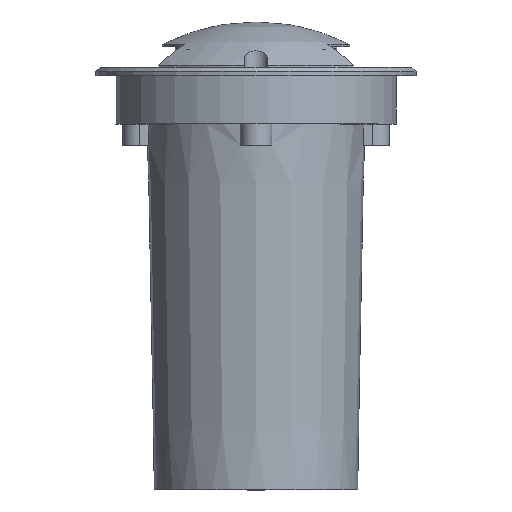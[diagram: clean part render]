
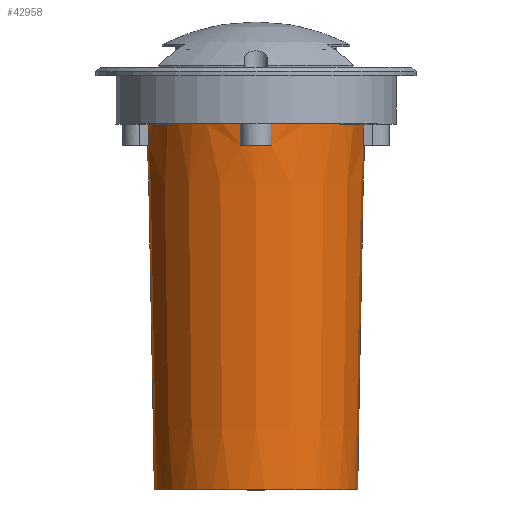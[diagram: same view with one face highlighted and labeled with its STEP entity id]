
A CAD part, top view. The second image highlights one B-rep face of the part: STEP entity #42958.
In plain terms, the highlighted conical face has half-angle 1.081 degrees and reference radius 38.25 mm.
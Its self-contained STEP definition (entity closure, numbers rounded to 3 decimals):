
#40450=CARTESIAN_POINT('',(0.,-150.,0.));
#40451=DIRECTION('',(0.,-1.,0.));
#40452=DIRECTION('',(0.707,0.,-0.707));
#40453=AXIS2_PLACEMENT_3D('',#40450,#40451,#40452);
#40455=CARTESIAN_POINT('',(0.,-150.,0.));
#40456=DIRECTION('',(0.,-1.,0.));
#40457=DIRECTION('',(-0.707,0.,0.707));
#40458=AXIS2_PLACEMENT_3D('',#40455,#40456,#40457);
#40460=DIRECTION('',(-0.013,1.,-0.013));
#40461=VECTOR('',#40460,132.524);
#40462=CARTESIAN_POINT('',(-26.163,-150.,-26.163));
#40463=LINE('',#40462,#40461);
#40464=DIRECTION('',(0.013,1.,-0.013));
#40465=VECTOR('',#40464,132.524);
#40466=CARTESIAN_POINT('',(26.163,-150.,-26.163));
#40467=LINE('',#40466,#40465);
#40483=CARTESIAN_POINT('',(0.,-17.5,0.));
#40484=DIRECTION('',(0.,-1.,0.));
#40485=DIRECTION('',(-0.989,0.,-0.145));
#40486=AXIS2_PLACEMENT_3D('',#40483,#40484,#40485);
#40521=CARTESIAN_POINT('',(0.,-17.5,0.));
#40522=DIRECTION('',(0.,-1.,0.));
#40523=DIRECTION('',(0.707,0.,-0.707));
#40524=AXIS2_PLACEMENT_3D('',#40521,#40522,#40523);
#40549=CARTESIAN_POINT('',(0.,-17.5,0.));
#40550=DIRECTION('',(0.,-1.,0.));
#40551=DIRECTION('',(0.989,0.,0.145));
#40552=AXIS2_PLACEMENT_3D('',#40549,#40550,#40551);
#40577=CARTESIAN_POINT('',(0.,-17.5,0.));
#40578=DIRECTION('',(0.,-1.,0.));
#40579=DIRECTION('',(-0.145,0.,0.989));
#40580=AXIS2_PLACEMENT_3D('',#40577,#40578,#40579);
#40582=CARTESIAN_POINT('',(0.,-17.5,0.));
#40583=DIRECTION('',(0.,-1.,0.));
#40584=DIRECTION('',(-0.707,0.,0.707));
#40585=AXIS2_PLACEMENT_3D('',#40582,#40583,#40584);
#42247=CARTESIAN_POINT('',(0.,-25.2,0.));
#42248=DIRECTION('',(0.,-1.,0.));
#42249=DIRECTION('',(0.99,0.,-0.14));
#42250=AXIS2_PLACEMENT_3D('',#42247,#42248,#42249);
#42286=CARTESIAN_POINT('',(38.935,-25.2,5.733));
#42287=CARTESIAN_POINT('',(38.984,-22.633,
5.733));
#42288=CARTESIAN_POINT('',(39.032,-20.067,
5.74));
#42289=CARTESIAN_POINT('',(39.081,-17.5,5.74));
#42303=CARTESIAN_POINT('',(39.11,-17.5,-5.535));
#42304=CARTESIAN_POINT('',(39.062,-20.067,
-5.532));
#42305=CARTESIAN_POINT('',(39.014,-22.633,
-5.525));
#42306=CARTESIAN_POINT('',(38.965,-25.2,-5.522));
#42316=CARTESIAN_POINT('',(0.,-25.2,0.));
#42317=DIRECTION('',(0.,-1.,0.));
#42318=DIRECTION('',(-0.99,0.,0.14));
#42319=AXIS2_PLACEMENT_3D('',#42316,#42317,#42318);
#42355=CARTESIAN_POINT('',(-38.935,-25.2,-5.733));
#42356=CARTESIAN_POINT('',(-38.984,-22.633,
-5.733));
#42357=CARTESIAN_POINT('',(-39.032,-20.067,
-5.74));
#42358=CARTESIAN_POINT('',(-39.081,-17.5,-5.74));
#42372=CARTESIAN_POINT('',(-39.11,-17.5,5.535));
#42373=CARTESIAN_POINT('',(-39.062,-20.067,
5.532));
#42374=CARTESIAN_POINT('',(-39.014,-22.633,
5.525));
#42375=CARTESIAN_POINT('',(-38.965,-25.2,5.522));
#42385=CARTESIAN_POINT('',(0.,-25.2,0.));
#42386=DIRECTION('',(0.,-1.,0.));
#42387=DIRECTION('',(0.14,0.,0.99));
#42388=AXIS2_PLACEMENT_3D('',#42385,#42386,#42387);
#42424=CARTESIAN_POINT('',(-5.733,-25.2,38.935));
#42425=CARTESIAN_POINT('',(-5.733,-22.633,
38.984));
#42426=CARTESIAN_POINT('',(-5.74,-20.067,
39.032));
#42427=CARTESIAN_POINT('',(-5.74,-17.5,39.081));
#42441=CARTESIAN_POINT('',(5.535,-17.5,39.11));
#42442=CARTESIAN_POINT('',(5.532,-20.067,
39.062));
#42443=CARTESIAN_POINT('',(5.525,-22.633,
39.014));
#42444=CARTESIAN_POINT('',(5.522,-25.2,38.965));
#42446=CARTESIAN_POINT('',(26.163,-150.,-26.163));
#42447=CARTESIAN_POINT('',(27.931,-17.5,-27.931));
#42448=VERTEX_POINT('',#42446);
#42449=VERTEX_POINT('',#42447);
#42450=CARTESIAN_POINT('',(-26.163,-150.,26.163));
#42451=CARTESIAN_POINT('',(-26.163,-150.,-26.163));
#42452=VERTEX_POINT('',#42450);
#42453=VERTEX_POINT('',#42451);
#42454=CARTESIAN_POINT('',(-27.931,-17.5,-27.931));
#42455=VERTEX_POINT('',#42454);
#42456=CARTESIAN_POINT('',(-39.081,-17.5,-5.737));
#42457=VERTEX_POINT('',#42456);
#42458=VERTEX_POINT('',#42355);
#42459=CARTESIAN_POINT('',(-38.965,-25.2,5.524));
#42460=VERTEX_POINT('',#42459);
#42461=VERTEX_POINT('',#42372);
#42462=CARTESIAN_POINT('',(-5.737,-17.5,39.081));
#42463=CARTESIAN_POINT('',(-27.931,-17.5,27.931));
#42464=VERTEX_POINT('',#42462);
#42465=VERTEX_POINT('',#42463);
#42466=VERTEX_POINT('',#42424);
#42467=CARTESIAN_POINT('',(5.524,-25.2,38.965));
#42468=VERTEX_POINT('',#42467);
#42469=VERTEX_POINT('',#42441);
#42470=CARTESIAN_POINT('',(39.081,-17.5,5.737));
#42471=VERTEX_POINT('',#42470);
#42472=VERTEX_POINT('',#42286);
#42473=CARTESIAN_POINT('',(38.965,-25.2,-5.524));
#42474=VERTEX_POINT('',#42473);
#42475=VERTEX_POINT('',#42303);
#42915=CARTESIAN_POINT('',(0.,-83.75,0.));
#42916=DIRECTION('',(0.,1.,0.));
#42917=DIRECTION('',(0.707,0.,-0.707));
#42918=AXIS2_PLACEMENT_3D('',#42915,#42916,#42917);
#42919=CONICAL_SURFACE('',#42918,38.25,1.081);
#42921=ORIENTED_EDGE('',*,*,#42920,.F.);
#42923=ORIENTED_EDGE('',*,*,#42922,.T.);
#42925=ORIENTED_EDGE('',*,*,#42924,.T.);
#42927=ORIENTED_EDGE('',*,*,#42926,.T.);
#42929=ORIENTED_EDGE('',*,*,#42928,.F.);
#42931=ORIENTED_EDGE('',*,*,#42930,.F.);
#42933=ORIENTED_EDGE('',*,*,#42932,.F.);
#42935=ORIENTED_EDGE('',*,*,#42934,.F.);
#42937=ORIENTED_EDGE('',*,*,#42936,.F.);
#42939=ORIENTED_EDGE('',*,*,#42938,.F.);
#42941=ORIENTED_EDGE('',*,*,#42940,.F.);
#42943=ORIENTED_EDGE('',*,*,#42942,.F.);
#42945=ORIENTED_EDGE('',*,*,#42944,.F.);
#42947=ORIENTED_EDGE('',*,*,#42946,.F.);
#42949=ORIENTED_EDGE('',*,*,#42948,.F.);
#42951=ORIENTED_EDGE('',*,*,#42950,.F.);
#42953=ORIENTED_EDGE('',*,*,#42952,.F.);
#42955=ORIENTED_EDGE('',*,*,#42954,.F.);
#42956=EDGE_LOOP('',(#42921,#42923,#42925,#42927,#42929,#42931,#42933,#42935,
#42937,#42939,#42941,#42943,#42945,#42947,#42949,#42951,#42953,#42955));
#42957=FACE_OUTER_BOUND('',#42956,.F.);
#42958=ADVANCED_FACE('',(#42957),#42919,.T.);
#40454=CIRCLE('',#40453,37.);
#40459=CIRCLE('',#40458,37.);
#40487=CIRCLE('',#40486,39.5);
#40525=CIRCLE('',#40524,39.5);
#40553=CIRCLE('',#40552,39.5);
#40581=CIRCLE('',#40580,39.5);
#40586=CIRCLE('',#40585,39.5);
#42251=CIRCLE('',#42250,39.355);
#42290=B_SPLINE_CURVE_WITH_KNOTS('',3,(#42286,#42287,#42288,#42289),
.UNSPECIFIED.,.F.,.F.,(4,4),(0.,1.),.UNSPECIFIED.);
#42307=B_SPLINE_CURVE_WITH_KNOTS('',3,(#42303,#42304,#42305,#42306),
.UNSPECIFIED.,.F.,.F.,(4,4),(0.,1.),.UNSPECIFIED.);
#42320=CIRCLE('',#42319,39.355);
#42359=B_SPLINE_CURVE_WITH_KNOTS('',3,(#42355,#42356,#42357,#42358),
.UNSPECIFIED.,.F.,.F.,(4,4),(0.,1.),.UNSPECIFIED.);
#42376=B_SPLINE_CURVE_WITH_KNOTS('',3,(#42372,#42373,#42374,#42375),
.UNSPECIFIED.,.F.,.F.,(4,4),(0.,1.),.UNSPECIFIED.);
#42389=CIRCLE('',#42388,39.355);
#42428=B_SPLINE_CURVE_WITH_KNOTS('',3,(#42424,#42425,#42426,#42427),
.UNSPECIFIED.,.F.,.F.,(4,4),(0.,1.),.UNSPECIFIED.);
#42445=B_SPLINE_CURVE_WITH_KNOTS('',3,(#42441,#42442,#42443,#42444),
.UNSPECIFIED.,.F.,.F.,(4,4),(0.,1.),.UNSPECIFIED.);
#42920=EDGE_CURVE('',#42448,#42449,#40467,.T.);
#42922=EDGE_CURVE('',#42448,#42452,#40454,.T.);
#42924=EDGE_CURVE('',#42452,#42453,#40459,.T.);
#42926=EDGE_CURVE('',#42453,#42455,#40463,.T.);
#42928=EDGE_CURVE('',#42457,#42455,#40487,.T.);
#42930=EDGE_CURVE('',#42458,#42457,#42359,.T.);
#42932=EDGE_CURVE('',#42460,#42458,#42320,.T.);
#42934=EDGE_CURVE('',#42461,#42460,#42376,.T.);
#42936=EDGE_CURVE('',#42465,#42461,#40586,.T.);
#42938=EDGE_CURVE('',#42464,#42465,#40581,.T.);
#42940=EDGE_CURVE('',#42466,#42464,#42428,.T.);
#42942=EDGE_CURVE('',#42468,#42466,#42389,.T.);
#42944=EDGE_CURVE('',#42469,#42468,#42445,.T.);
#42946=EDGE_CURVE('',#42471,#42469,#40553,.T.);
#42948=EDGE_CURVE('',#42472,#42471,#42290,.T.);
#42950=EDGE_CURVE('',#42474,#42472,#42251,.T.);
#42952=EDGE_CURVE('',#42475,#42474,#42307,.T.);
#42954=EDGE_CURVE('',#42449,#42475,#40525,.T.);
